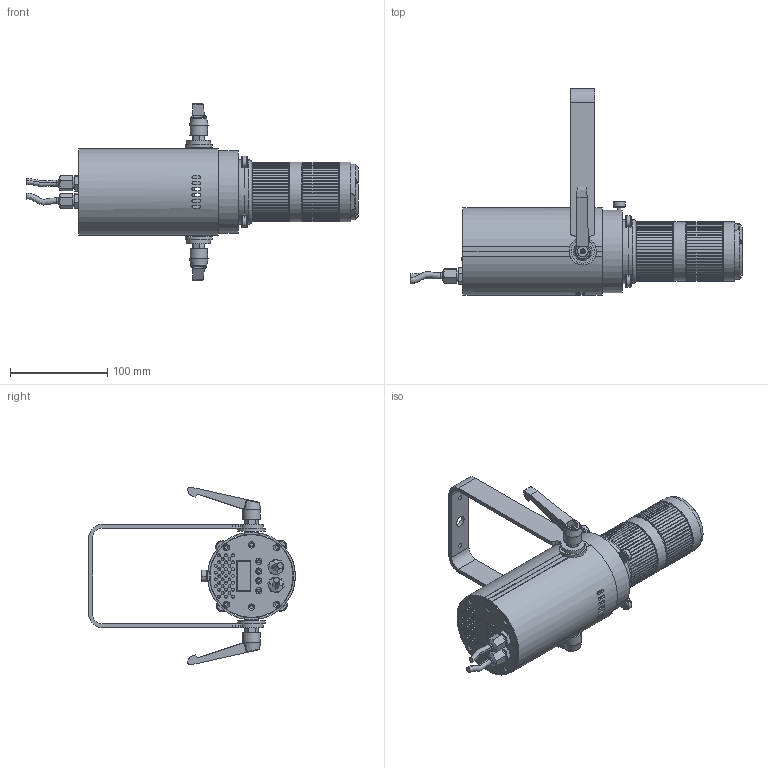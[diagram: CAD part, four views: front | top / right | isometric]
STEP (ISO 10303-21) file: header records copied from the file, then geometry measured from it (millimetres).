
FILE_DESCRIPTION (( 'STEP AP214' ), '1' );
FILE_NAME ('Gallery50 spot2540.STEP', '2025-04-10T01:46:48', ( '' ), ( '' ), 'SwSTEP 2.0', 'SolidWorks 2023', '' );
FILE_SCHEMA (( 'AUTOMOTIVE_DESIGN' ));
Length unit declared in the file: millimetre
Products named in the file (11): PG头∮7（黑色); cross recessed cheese head screws type a gb_GB_CROSS_SCREWS_TYPE135 M3X4-N; 角度调节器组件02; 2540; Gallery50 spot2540; 零件3; 角度调节器组件03; 锁紧螺丝M4; 40w二合一显示屏; 零件4; 散热器
Assembly tree (14 placements, depth 2):
  Gallery50 spot2540
    散热器
    40w二合一显示屏
    PG头∮7（黑色)  x2
    锁紧螺丝M4
    零件3
    角度调节器组件02  x2
    角度调节器组件03  x2
    cross recessed cheese head screws type a gb_GB_CROSS_SCREWS_TYPE135 M3X4-N  x2
    零件4
    2540
Bounding box: 340.6 x 211.97 x 181.5 mm (x, y, z)
Volume: 549454.5 mm3; surface area: 249899.3 mm2
Topology: 23 solids, 23 shells, 1249 faces, 3313 edges, 2161 vertices
Faces by surface type: plane 720, cylinder 368, cone 95, bspline 37, torus 18, sphere 11
Full cylindrical faces by diameter (mm): 2.5 x1, 3 x39, 3.2 x4, 3.3 x2, 3.4 x6, 4 x2, 4.5 x2, 5 x2, 6 x2, 6.5 x6, 7 x4, 10 x1, 11 x3, 12 x4, 12.5 x2, 14 x2, 18 x2, 28 x2, 28.1 x1, 30 x1, 34 x2, 40.1 x1, 47.4 x1, 48 x3, 50 x2, 57.2 x1, 57.5 x1, 58.8 x5, 59.2 x4, 61.2 x2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
Entity records: 38050 total; most frequent: CARTESIAN_POINT 11286, ORIENTED_EDGE 5602, DIRECTION 4994, EDGE_CURVE 2801, VERTEX_POINT 1921, AXIS2_PLACEMENT_3D 1834, EDGE_LOOP 1450, VECTOR 1326
